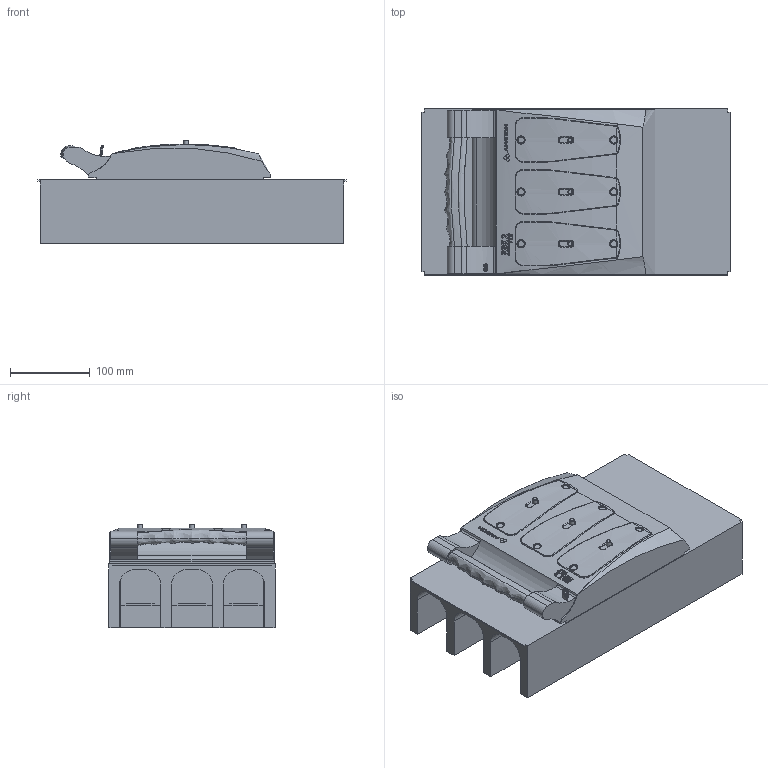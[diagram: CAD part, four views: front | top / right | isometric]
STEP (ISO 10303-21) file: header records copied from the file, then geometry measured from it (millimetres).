
FILE_DESCRIPTION(/* description */ (''),/* implementation_level */ '2;1');
FILE_NAME(/* name */ 'RBK 2_stp.stp',/* time_stamp */ '2019-07-10T14:59:38+02:00',/* author */ (''),/* organization */ (''),/* preprocessor_version */ 'ST-DEVELOPER v16',/* originating_system */ 'SIEMENS PLM Software NX 10.0',/* authorisation */ '');
FILE_SCHEMA (('AUTOMOTIVE_DESIGN { 1 0 10303 214 3 1 1 1 }'));
Products named in the file (1): 710_30907858ffyv
Bounding box: 386 x 208 x 129.8 mm (x, y, z)
Volume: 5908009.2 mm3; surface area: 425568 mm2
Topology: 1 solids, 1 shells, 1298 faces, 3602 edges, 2335 vertices
Faces by surface type: plane 853, bspline 217, cylinder 115, extrusion 95, cone 9, torus 9
Full cylindrical faces by diameter (mm): 6 x3, 11 x6
Entity records: 60542 total; most frequent: CARTESIAN_POINT 19891, ORIENTED_EDGE 7068, DIRECTION 6518, EDGE_CURVE 3534, AXIS2_PLACEMENT_3D 2501, VERTEX_POINT 2315, VECTOR 1516, LINE 1421
